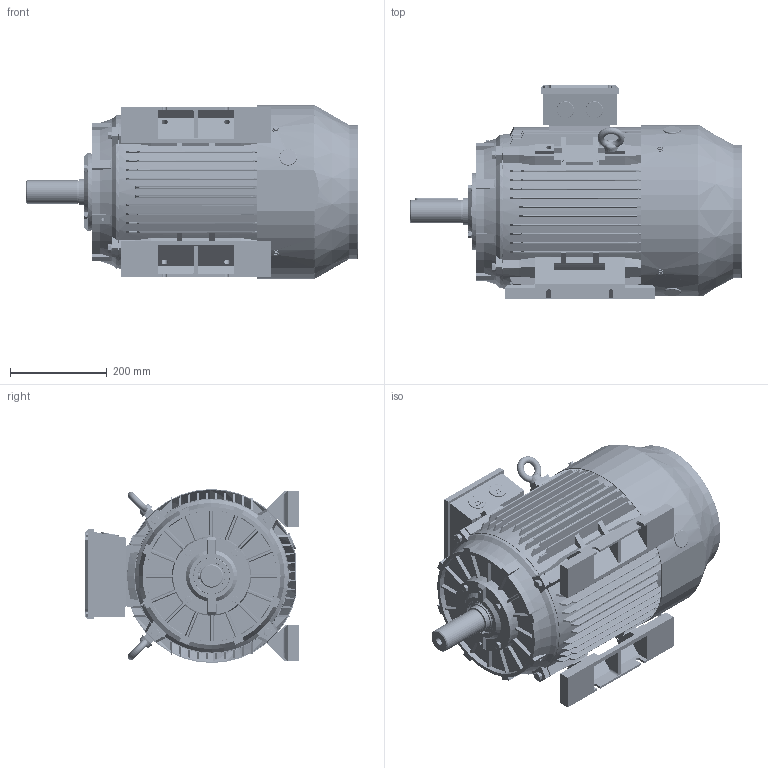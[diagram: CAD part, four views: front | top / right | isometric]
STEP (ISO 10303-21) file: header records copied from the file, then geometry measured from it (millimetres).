
FILE_DESCRIPTION (( 'STEP AP203' ), '1' );
FILE_NAME ('TC 180M B3外形图.STEP', '2014-09-04T09:01:31', ( '微软用户' ), ( '微软中国' ), 'SwSTEP 2.0', 'SolidWorks 2008', '' );
FILE_SCHEMA (( 'CONFIG_CONTROL_DESIGN' ));
Products named in the file (28): TC 180 B3 后端盖_默认; TC 180 轴承外盖NDE_默认; TC 180 B3 前端盖_默认; TC 180无轴转子_默认; TC 180 轴承外盖DE_默认; TC 160-180接线盒盖_默认; M10-35_默认; 铜油嘴_默认; 扣塞_默认; M6-10_默认; TC 180M B3俋倛芞; TC 180M B5机座_默认; TC 180M 底脚_默认; TC 180M转子_默认; TC 180M 轴_默认; 6311_默认; 平键14-9-90_默认; TC 180 轴承内盖_默认; IE2 180-4P风叶_默认; TC 180风罩_默认; TC 160-180接线盒座_默认; 10_默认; 8_默认; M8-65_默认; 油封55-75-8_默认; 螺塞M32_默认; M6-20_默认; 吊环M12_默认
Assembly tree (53 placements, depth 3):
  TC 180M B3俋倛芞
    油封55-75-8_默认  x2
    扣塞_默认  x2
    M6-10_默认  x4
    TC 180 B3 前端盖_默认
    IE2 180-4P风叶_默认
    10_默认  x4
    螺塞M32_默认  x2
    TC 180M B5机座_默认
    TC 180 轴承外盖NDE_默认
    TC 180M 底脚_默认  x2
    M8-65_默认  x4
    TC 180 轴承内盖_默认  x2
    M10-35_默认  x4
    M6-20_默认  x4
    吊环M12_默认  x2
    8_默认  x4
    TC 180 B3 后端盖_默认
    TC 160-180接线盒座_默认
    TC 180M转子_默认
      6311_默认  x2
      TC 180无轴转子_默认
      平键14-9-90_默认
      TC 180M 轴_默认
    TC 160-180接线盒盖_默认
    TC 180风罩_默认
    TC 180 轴承外盖DE_默认
    铜油嘴_默认  x2
Bounding box: 687 x 441 x 359.96 mm (x, y, z)
Volume: 16170808.3 mm3; surface area: 3417472.7 mm2
Topology: 54 solids, 54 shells, 7003 faces, 19944 edges, 13067 vertices
Faces by surface type: plane 3345, cylinder 2592, cone 459, torus 284, bspline 211, sphere 112
Entity records: 222606 total; most frequent: CARTESIAN_POINT 56754, ORIENTED_EDGE 34774, DIRECTION 33206, EDGE_CURVE 17387, AXIS2_PLACEMENT_3D 11664, VERTEX_POINT 11417, VECTOR 9878, LINE 9878
